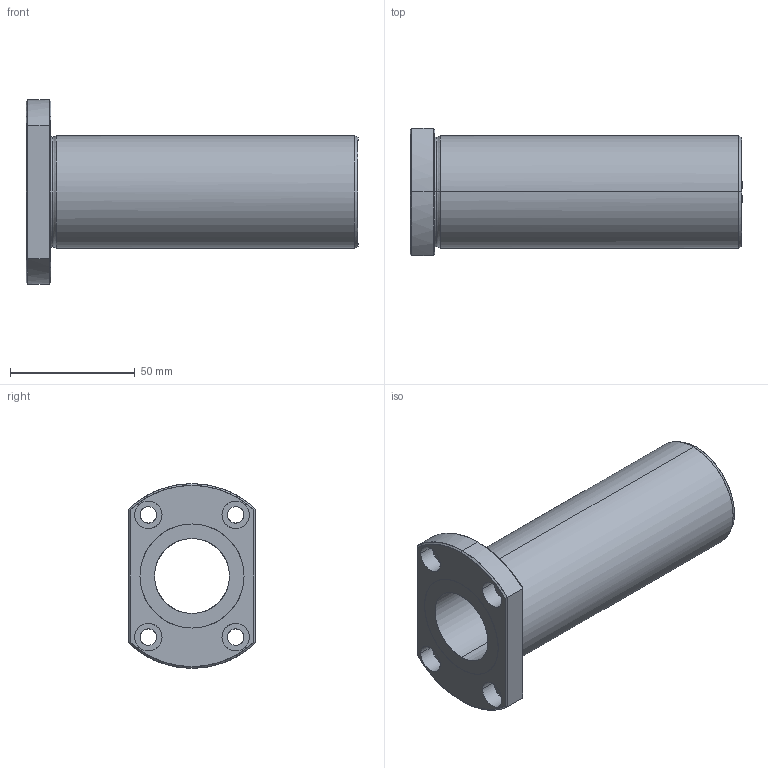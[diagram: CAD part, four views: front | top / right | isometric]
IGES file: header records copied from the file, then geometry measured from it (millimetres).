
Global section: file name: No Iges File Name specified; native system: AutoDesk Inventor R10; preprocessor: AutoDesk Inventor Iges Exporter R10; author: No Author specified; organization: No Organization specified; date: 20101216.154643; units: millimetre
Bounding box: 133 x 51 x 74 mm (x, y, z)
Surface area: 38332.7 mm2 (no closed solid volume)
Topology: 0 solids, 0 shells, 57 faces, 360 edges, 360 vertices
Faces by surface type: bspline 57
